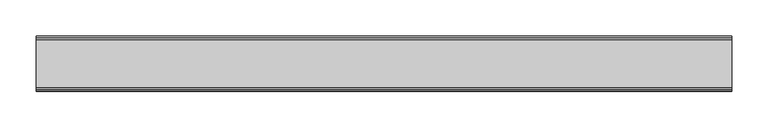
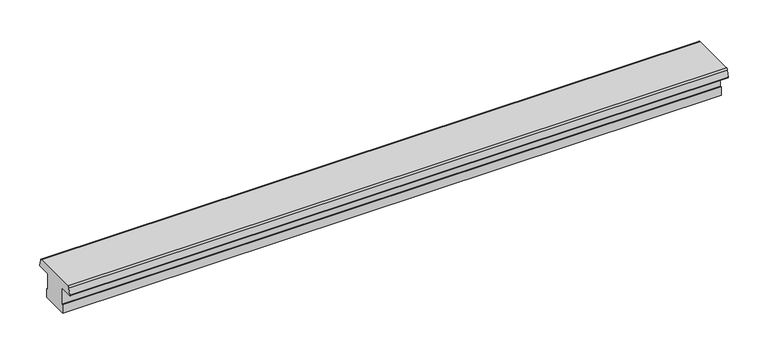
"""IFC4 building model written with IfcOpenShell, lengths in millimetres: proxy geometry, Weiku - Montante - Divisor 02.2.01.040 : Weiku - Montante - Divisor 02.2.01.040."""

import ifcopenshell
import ifcopenshell.guid

model = None  # the IFC model being written
_history = None  # IfcOwnerHistory: only IFC2X3 demands one
_inside = {}  # id of a spatial element -> (the spatial element, [elements in it])
_under = {}  # id of a project, library or spatial element -> (it, [spatial elements below it])
_declared = {}  # id of a project -> (the project, [libraries it declares])
_typed = {}  # id of a type object -> (the type object, [elements of that type])
_made_of = {}  # id of a material, layer set ... -> (it, [elements and type objects made of it])


def new_model(schema):
    """Start an empty IFC model of exactly this schema.

    Asked for "IFC4X3", IfcOpenShell would pick the latest addendum, in which some entities
    have other attributes; the version numbers below select the first issue.
    IFC2X3 requires an IfcOwnerHistory on every rooted entity: one is made here for all.
    """
    global model, _history
    if schema == "IFC4X3":
        model = ifcopenshell.file(schema_version=(4, 3, 0, 0))
    else:
        model = ifcopenshell.file(schema=schema)
    _inside.clear()
    _under.clear()
    _declared.clear()
    _typed.clear()
    _made_of.clear()
    _history = None
    if model.schema == "IFC2X3":
        org = make("IfcOrganization", Name="unknown")
        user = make(
            "IfcPersonAndOrganization",
            ThePerson=make("IfcPerson", FamilyName="unknown"),
            TheOrganization=org,
        )
        app = make(
            "IfcApplication",
            ApplicationDeveloper=org,
            Version="unknown",
            ApplicationFullName="unknown",
            ApplicationIdentifier="unknown",
        )
        _history = make(
            "IfcOwnerHistory",
            OwningUser=user,
            OwningApplication=app,
            ChangeAction="ADDED",
            CreationDate=0,
        )
    return model


def make(cls, **values):
    """One entity of the class cls with the attributes given. An attribute that is None is left unset."""
    return model.create_entity(
        cls, **{name: value for name, value in values.items() if value is not None}
    )


def rooted(cls, **values):
    """An entity with a GlobalId (a new one), such as an element, a storey or a relation."""
    return make(cls, GlobalId=ifcopenshell.guid.new(), OwnerHistory=_history, **values)


def si_unit(unit_type, name, prefix=None):
    """IfcSIUnit, for example si_unit("LENGTHUNIT", "METRE", prefix="MILLI")."""
    return make("IfcSIUnit", UnitType=unit_type, Prefix=prefix, Name=name)


def assignment(units):
    """IfcUnitAssignment: the units of a project."""
    return None if units is None else make("IfcUnitAssignment", Units=units)


def point(xyz):
    """IfcCartesianPoint."""
    return None if xyz is None else make("IfcCartesianPoint", Coordinates=xyz)


def direction(xyz):
    """IfcDirection."""
    return None if xyz is None else make("IfcDirection", DirectionRatios=xyz)


def frame(location, z_axis=None, x_axis=None):
    """IfcAxis2Placement3D, a coordinate frame: its origin and axes. An axis left out is left unset."""
    return make(
        "IfcAxis2Placement3D",
        Location=point(location),
        Axis=direction(z_axis),
        RefDirection=direction(x_axis),
    )


def frame_2d(location, x_axis=None):
    """IfcAxis2Placement2D, a coordinate frame in the plane: its origin and x axis."""
    return make(
        "IfcAxis2Placement2D", Location=point(location), RefDirection=direction(x_axis)
    )


def origin():
    """The frame at (0, 0, 0) with its axes left unset."""
    return frame((0.0, 0.0, 0.0))


def place(relative_to, where):
    """IfcLocalPlacement: puts the frame where relative to a parent placement (None: the world)."""
    return make(
        "IfcLocalPlacement", PlacementRelTo=relative_to, RelativePlacement=where
    )


def context(
    kind, dimensions, precision=None, world=None, true_north=None, identifier=None
):
    """IfcGeometricRepresentationContext, for example the 3D "Model" context."""
    return make(
        "IfcGeometricRepresentationContext",
        ContextIdentifier=identifier,
        ContextType=kind,
        CoordinateSpaceDimension=dimensions,
        Precision=precision,
        WorldCoordinateSystem=world,
        TrueNorth=true_north,
    )


def project(units=None, contexts=None):
    """IfcProject with its units and contexts."""
    return rooted(
        "IfcProject",
        Name="project",
        RepresentationContexts=contexts,
        UnitsInContext=assignment(units),
    )


def spatial(cls, under=None, at=None, **own):
    """A site, building, storey or space (cls), placed at a placement, below another one or the project."""
    s = rooted(cls, ObjectPlacement=at, **own)
    if under is not None:
        _under.setdefault(under.id(), (under, []))[1].append(s)
    return s


def polyline(points):
    """IfcPolyline through the points."""
    return make("IfcPolyline", Points=[point(p) for p in points])


def circle_curve(where, radius):
    """IfcCircle in the frame where."""
    return make("IfcCircle", Position=where, Radius=radius)


def trimmed(basis, trim1, trim2, sense, master):
    """IfcTrimmedCurve: the piece of a basis curve between two trims."""
    return make(
        "IfcTrimmedCurve",
        BasisCurve=basis,
        Trim1=trim1,
        Trim2=trim2,
        SenseAgreement=sense,
        MasterRepresentation=master,
    )


def segment(curve, same_sense, transition):
    """IfcCompositeCurveSegment."""
    return make(
        "IfcCompositeCurveSegment",
        Transition=transition,
        SameSense=same_sense,
        ParentCurve=curve,
    )


def composite_curve(segments, self_intersect=None):
    """IfcCompositeCurve: segments joined end to end."""
    return make("IfcCompositeCurve", Segments=segments, SelfIntersect=self_intersect)


def outline(outer, holes=None, kind="AREA"):
    """IfcArbitraryClosedProfileDef: a profile drawn as a closed curve; with holes, ...WithVoids."""
    if holes is None:
        return make("IfcArbitraryClosedProfileDef", ProfileType=kind, OuterCurve=outer)
    return make(
        "IfcArbitraryProfileDefWithVoids",
        ProfileType=kind,
        OuterCurve=outer,
        InnerCurves=holes,
    )


def extrude(swept, where, along, depth):
    """IfcExtrudedAreaSolid: the profile swept, set in the frame where, extruded along a direction by depth."""
    return make(
        "IfcExtrudedAreaSolid",
        SweptArea=swept,
        Position=where,
        ExtrudedDirection=direction(along),
        Depth=depth,
    )


def shape(context_of_items, identifier, shape_type, items):
    """IfcShapeRepresentation: the items that make up one representation, for example the "Body"."""
    return make(
        "IfcShapeRepresentation",
        ContextOfItems=context_of_items,
        RepresentationIdentifier=identifier,
        RepresentationType=shape_type,
        Items=items,
    )


def source(mapping_origin, context_of_items, identifier, shape_type, items):
    """IfcRepresentationMap: a shape defined once, which mapped items show again and again."""
    return make(
        "IfcRepresentationMap",
        MappingOrigin=mapping_origin,
        MappedRepresentation=shape(context_of_items, identifier, shape_type, items),
    )


def transform(
    local_origin,
    x_axis=None,
    y_axis=None,
    z_axis=None,
    scale=None,
    scale2=None,
    scale3=None,
    uniform=True,
):
    """IfcCartesianTransformationOperator3D, or its non-uniform kind. x_axis, y_axis, z_axis: its Axis1, 2, 3."""
    if uniform:
        return make(
            "IfcCartesianTransformationOperator3D",
            Axis1=direction(x_axis),
            Axis2=direction(y_axis),
            LocalOrigin=point(local_origin),
            Scale=scale,
            Axis3=direction(z_axis),
        )
    return make(
        "IfcCartesianTransformationOperator3DnonUniform",
        Axis1=direction(x_axis),
        Axis2=direction(y_axis),
        LocalOrigin=point(local_origin),
        Scale=scale,
        Axis3=direction(z_axis),
        Scale2=scale2,
        Scale3=scale3,
    )


def mapped(mapping_source, mapping_target):
    """IfcMappedItem: shows the shape of a source again, moved by a transform."""
    return make(
        "IfcMappedItem", MappingSource=mapping_source, MappingTarget=mapping_target
    )


def made_of(thing, what):
    """Note that an element or type object is made of a material, layer set ...; save() writes the relation."""
    if what is not None:
        _made_of.setdefault(what.id(), (what, []))[1].append(thing)
    return thing


def element(
    cls,
    number,
    at=None,
    inside=None,
    cuts=None,
    type_object=None,
    material=None,
    context=None,
    identifier="Body",
    shape_type=None,
    held_by="IfcProductDefinitionShape",
    body=None,
    shapes=None,
    **own,
):
    """One element of the class cls, such as IfcWall. Its Tag is "e" and its number.

    at: its placement. inside: the storey or other place that contains it. cuts: it is an
    opening in that element (IfcRelVoidsElement). A single representation is given by context,
    identifier, shape_type and body (its items); several are given by shapes. held_by: the class
    of the entity that holds the representations. save() writes the other relations.
    """
    e = rooted(cls, Tag="e%d" % number, ObjectPlacement=at, **own)
    if body is not None:
        shapes = [shape(context, identifier, shape_type, body)]
    if shapes is not None:
        e.Representation = make(held_by, Representations=shapes)
    if inside is not None:
        _inside.setdefault(inside.id(), (inside, []))[1].append(e)
    if cuts is not None:
        rooted(
            "IfcRelVoidsElement", RelatingBuildingElement=cuts, RelatedOpeningElement=e
        )
    if type_object is not None:
        _typed.setdefault(type_object.id(), (type_object, []))[1].append(e)
    return made_of(e, material)


def aggregate(whole, parts):
    """IfcRelAggregates: a whole, such as a stair, and the parts it consists of."""
    return rooted("IfcRelAggregates", RelatingObject=whole, RelatedObjects=parts)


def save(model, path):
    """Write the relations noted so far, then the file.

    IfcRelAggregates (storeys below a building ...), IfcRelContainedInSpatialStructure (elements
    in a storey), IfcRelDefinesByType, IfcRelAssociatesMaterial and IfcRelDeclares: one each for
    every whole, place, type object, material and project.
    """
    for whole, parts in _under.values():
        aggregate(whole, parts)
    for where, things in _inside.values():
        rooted(
            "IfcRelContainedInSpatialStructure",
            RelatedElements=things,
            RelatingStructure=where,
        )
    for kind, things in _typed.values():
        rooted("IfcRelDefinesByType", RelatedObjects=things, RelatingType=kind)
    for what, things in _made_of.values():
        rooted("IfcRelAssociatesMaterial", RelatedObjects=things, RelatingMaterial=what)
    for by, libraries in _declared.values():
        rooted("IfcRelDeclares", RelatingContext=by, RelatedDefinitions=libraries)
    model.write(path)


def generic_models_18c20511(model_context):
    return source(origin(), model_context, "Body", "SweptSolid", [
        extrude(outline(composite_curve([segment(polyline([(-33.0007245, 50.0), (33.0007245, 50.0)]), True, "CONTINUOUS"), segment(trimmed(circle_curve(frame_2d((33.0007245, 47.0)), 3.0), [point((33.0007245, 50.0))], [point((35.898502, 47.7764571))], False, "CARTESIAN"), True, "CONTINUOUS"), segment(polyline([(35.898502, 47.7764571), (38.4496907, 38.2552914)]), True, "CONTINUOUS"), segment(trimmed(circle_curve(frame_2d((37.8701352, 38.1)), 0.6), [point((38.4496907, 38.2552914))], [point((37.8701352, 37.5))], False, "CARTESIAN"), True, "CONTINUOUS"), segment(polyline([(37.8701352, 37.5), (17.5004577, 37.5), (17.5004577, 12.168694), (20.5, 12.972419), (20.5, 0.0), (-20.5, 0.0), (-20.5, 12.972419), (-17.5004577, 12.168694), (-17.5004577, 37.5), (-37.8701352, 37.5)]), True, "CONTINUOUS"), segment(trimmed(circle_curve(frame_2d((-37.8701352, 38.1)), 0.6), [point((-37.8701352, 37.5))], [point((-38.4496907, 38.2552914))], False, "CARTESIAN"), True, "CONTINUOUS"), segment(polyline([(-38.4496907, 38.2552914), (-35.898502, 47.7764571)]), True, "CONTINUOUS"), segment(trimmed(circle_curve(frame_2d((-33.0007245, 47.0)), 3.0), [point((-35.898502, 47.7764571))], [point((-33.0007245, 50.0))], False, "CARTESIAN"), True, "CONTINUOUS")], self_intersect=False)), frame((-480.55, 0.0, 0.0), z_axis=(1.0, 0.0, 0.0), x_axis=(0.0, 1.0, 0.0)), (0.0, 0.0, 1.0), 961.1),
    ])


if __name__ == "__main__":
    model = new_model("IFC4")
    model_context = context("Model", 3, world=origin())
    ifc_project = project(units=[si_unit("LENGTHUNIT", "METRE", prefix="MILLI")], contexts=[model_context])
    site = spatial("IfcSite", under=ifc_project)
    building = spatial("IfcBuilding", under=site)
    placement = place(None, origin())
    generic_models_shape = generic_models_18c20511(model_context)
    element("IfcBuildingElementProxy", 1, Name="Weiku - Montante - Divisor 02.2.01.040 : Weiku - Montante - Divisor 02.2.01.040", ObjectType="Weiku - Montante - Divisor 02.2.01.040 : Weiku - Montante - Divisor 02.2.01.040", at=placement, inside=building, context=model_context, shape_type="MappedRepresentation", body=[
        mapped(generic_models_shape, transform((0.0, 0.0, 0.0), x_axis=(1.0, 0.0, 0.0), y_axis=(0.0, 1.0, 0.0), z_axis=(0.0, 0.0, 1.0))),
    ])
    save(model, "model.ifc")
